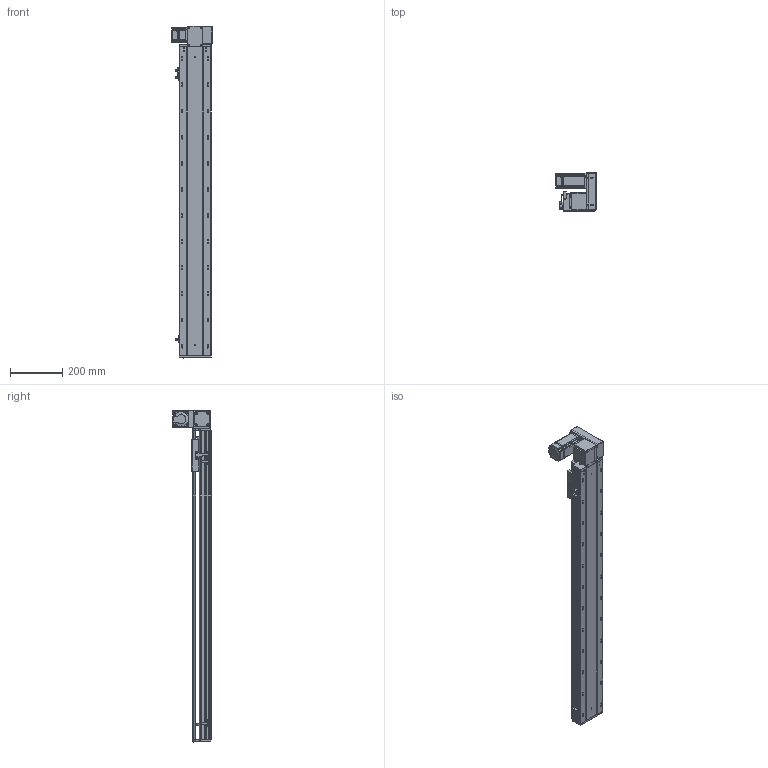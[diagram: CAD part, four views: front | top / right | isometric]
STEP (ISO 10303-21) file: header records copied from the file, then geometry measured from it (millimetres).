
FILE_DESCRIPTION (( 'STEP AP203' ), '1' );
FILE_NAME ('RY120-T-300-UR.SLDASM_950.step', '2021-03-01T05:56:35', ( '盈信电脑' ), ( '东莞市道滘镇水果街19号' ), 'SwSTEP 2.0', 'SolidWorks 2012', '' );
FILE_SCHEMA (( 'CONFIG_CONTROL_DESIGN' ));
Length unit declared in the file: millimetre
Products named in the file (17): RY120-T翋肮祭盓傅釱; RY120-T萇儂假蚾啣; RY120-T肮祭湍揤踡輸1; RY120-T肮祭湍揤踡輸2; 覜茼ん672; RY120綴裔啣; RY120外置感应片(140共用）; RY120-T-300-UR倰第菁釱_950; RY120-T-300-UR倰第奻裔啣_950; RY120肮祭湍臏賑輸; RY120-T主同步轮轴承压盖; RY120-T萇儂欶; RY120-T-300-UR.SLDASM_950; 15; 滅袉蝶18-10; RY120-T翋肮祭謫裔啣; RY120-T蹟翐M4
Assembly tree (22 placements, depth 2):
  RY120-T-300-UR.SLDASM_950
    RY120-T-300-UR倰第菁釱_950
    RY120-T-300-UR倰第奻裔啣_950
    RY120肮祭湍臏賑輸
    RY120綴裔啣
    覜茼ん672  x3
    RY120外置感应片(140共用）
    RY120-T肮祭湍揤踡輸1
    RY120-T肮祭湍揤踡輸2
    RY120-T翋肮祭盓傅釱
    RY120-T萇儂假蚾啣
    滅袉蝶18-10  x2
    RY120-T翋肮祭謫裔啣
    15
    RY120-T蹟翐M4  x4
    RY120-T萇儂欶
    RY120-T主同步轮轴承压盖
Bounding box: 155.5 x 146 x 1271 mm (x, y, z)
Volume: 3499203.2 mm3; surface area: 1309203.1 mm2
Topology: 23 solids, 23 shells, 3022 faces, 8324 edges, 5356 vertices
Faces by surface type: plane 1466, cylinder 1210, cone 257, bspline 89
Entity records: 98663 total; most frequent: CARTESIAN_POINT 26442, ORIENTED_EDGE 15080, DIRECTION 13986, EDGE_CURVE 7540, VERTEX_POINT 4943, AXIS2_PLACEMENT_3D 4719, LINE 4548, VECTOR 4548
